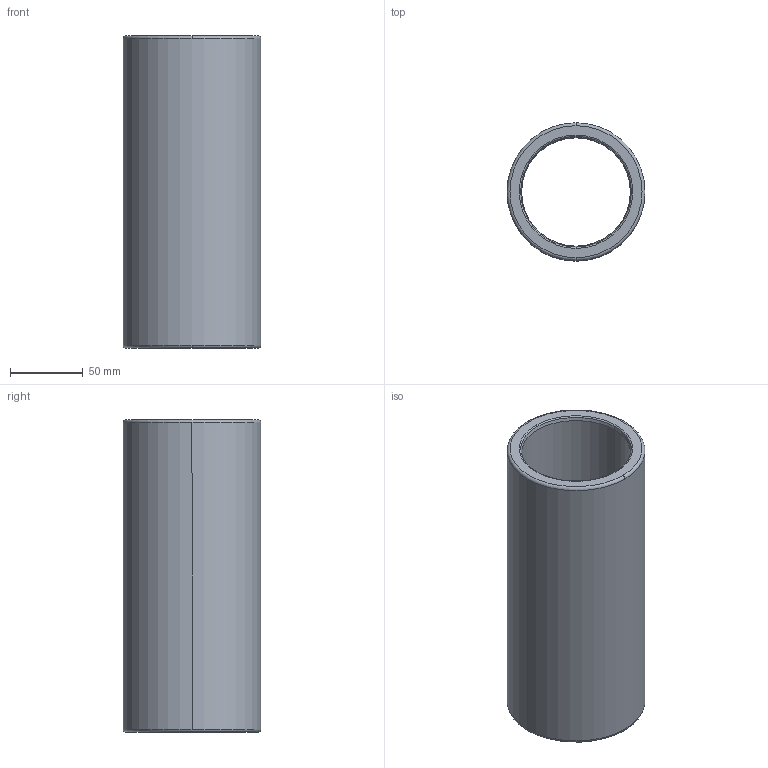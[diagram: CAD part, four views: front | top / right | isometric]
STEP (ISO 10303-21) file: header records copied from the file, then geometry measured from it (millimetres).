
FILE_DESCRIPTION((''),'2;1');
FILE_NAME('B30_063_215.stp','2009-01-12T10:42:06',(''),(''),'Mechanical Desktop 2009','Mechanical Desktop 2009',', , ');
FILE_SCHEMA(('CONFIG_CONTROL_DESIGN'));
Length unit declared in the file: millimetre
Products named in the file (2): Product; blmdl1
Assembly tree (1 placements, depth 2):
  Product
    blmdl1
Bounding box: 94.98 x 94.98 x 215 mm (x, y, z)
Volume: 573429.9 mm3; surface area: 119191.6 mm2
Topology: 1 solids, 1 shells, 18 faces, 48 edges, 32 vertices
Faces by surface type: torus 8, cylinder 4, cone 4, plane 2
Entity records: 705 total; most frequent: DIRECTION 128, CARTESIAN_POINT 100, ORIENTED_EDGE 96, AXIS2_PLACEMENT_3D 60, EDGE_CURVE 48, CIRCLE 40, VERTEX_POINT 32, EDGE_LOOP 20
